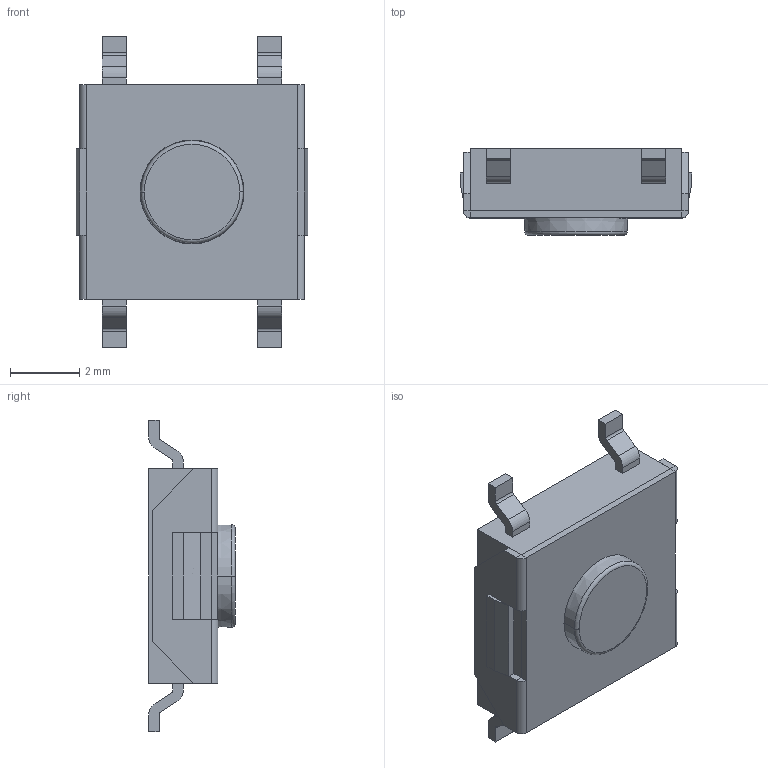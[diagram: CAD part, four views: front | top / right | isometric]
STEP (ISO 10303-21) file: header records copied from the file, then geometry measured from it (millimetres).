
FILE_DESCRIPTION((''),'2;1');
FILE_NAME('JQA6262P-C0254-01G-1-104_ASM','2026-05-23T12:03:30',('Admin'),(''),'CREO PARAMETRIC BY PTC INC, 2019224','CREO PARAMETRIC BY PTC INC, 2019224','');
FILE_SCHEMA(('AUTOMOTIVE_DESIGN { 1 0 10303 214 1 1 1 1 }'));
Length unit declared in the file: millimetre
Products named in the file (3): JQA6262P-C0254-01G-1-104_01; JQA6262P-C0254-01G-1-104_02; JQA6262P-C0254-01G-1-104_ASM
Assembly tree (2 placements, depth 2):
  JQA6262P-C0254-01G-1-104_ASM
    JQA6262P-C0254-01G-1-104_01
    JQA6262P-C0254-01G-1-104_02
Bounding box: 6.7 x 2.5 x 9 mm (x, y, z)
Volume: 84.4 mm3; surface area: 243.1 mm2
Topology: 2 solids, 2 shells, 115 faces, 292 edges, 186 vertices
Faces by surface type: plane 89, cylinder 22, cone 2, torus 2
Entity records: 4907 total; most frequent: CARTESIAN_POINT 607, DIRECTION 596, ORIENTED_EDGE 580, EDGE_CURVE 290, PRESENTATION_STYLE_ASSIGNMENT 259, VECTOR 240, LINE 240, STYLED_ITEM 202
